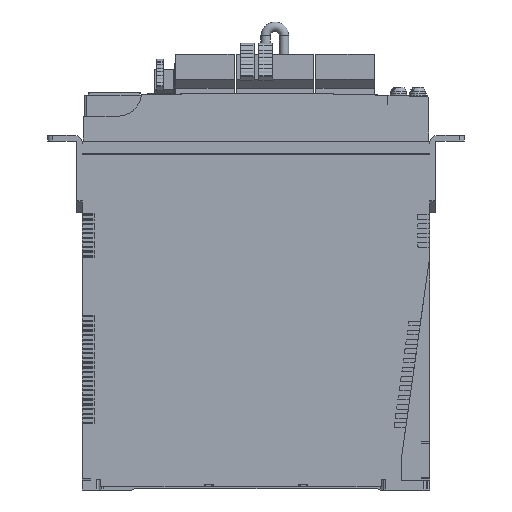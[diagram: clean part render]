
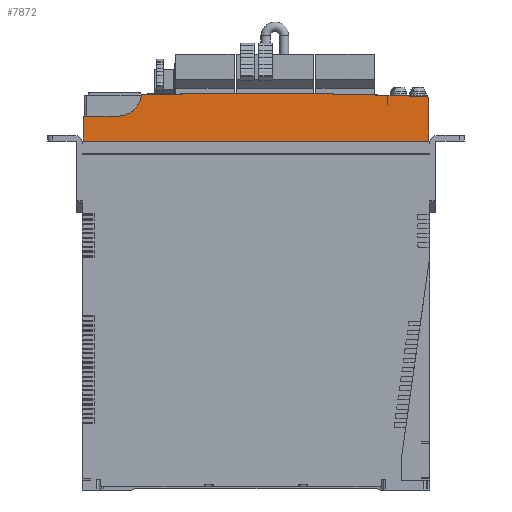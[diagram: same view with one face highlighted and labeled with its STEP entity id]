
A CAD part, left-side view. The second image highlights one B-rep face of the part: STEP entity #7872.
In plain terms, the highlighted planar face has unit normal (-1, 0, 0.018).
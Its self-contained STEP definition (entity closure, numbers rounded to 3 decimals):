
#7872 = ADVANCED_FACE( '', ( #17731 ), #17732, .T. );
#17731 = FACE_OUTER_BOUND( '', #29522, .T. );
#17732 = PLANE( '', #29523 );
#29522 = EDGE_LOOP( '', ( #54607, #54608, #54609, #54610, #54611, #54612, #54613, #54614, #54615, #54616, #54617 ) );
#29523 = AXIS2_PLACEMENT_3D( '', #54618, #54619, #54620 );
#54607 = ORIENTED_EDGE( '', *, *, #80286, .T. );
#54608 = ORIENTED_EDGE( '', *, *, #80287, .T. );
#54609 = ORIENTED_EDGE( '', *, *, #74514, .T. );
#54610 = ORIENTED_EDGE( '', *, *, #76976, .T. );
#54611 = ORIENTED_EDGE( '', *, *, #80288, .T. );
#54612 = ORIENTED_EDGE( '', *, *, #74355, .T. );
#54613 = ORIENTED_EDGE( '', *, *, #76792, .F. );
#54614 = ORIENTED_EDGE( '', *, *, #80289, .T. );
#54615 = ORIENTED_EDGE( '', *, *, #76073, .T. );
#54616 = ORIENTED_EDGE( '', *, *, #80290, .F. );
#54617 = ORIENTED_EDGE( '', *, *, #80291, .F. );
#54618 = CARTESIAN_POINT( '', ( -41.844, 150., 0. ) );
#54619 = DIRECTION( '', ( -1., 0., 0.017 ) );
#54620 = DIRECTION( '', ( 0.017, 0., 1. ) );
#74355 = EDGE_CURVE( '', #91408, #91409, #91410, .T. );
#74514 = EDGE_CURVE( '', #91673, #91674, #91675, .T. );
#76073 = EDGE_CURVE( '', #94205, #94206, #94207, .T. );
#76792 = EDGE_CURVE( '', #95325, #91409, #95327, .T. );
#76976 = EDGE_CURVE( '', #91674, #95599, #95600, .T. );
#80286 = EDGE_CURVE( '', #100286, #100287, #100288, .T. );
#80287 = EDGE_CURVE( '', #100287, #91673, #100289, .T. );
#80288 = EDGE_CURVE( '', #95599, #91408, #100290, .T. );
#80289 = EDGE_CURVE( '', #95325, #94205, #100291, .T. );
#80290 = EDGE_CURVE( '', #100292, #94206, #100293, .T. );
#80291 = EDGE_CURVE( '', #100286, #100292, #100294, .T. );
#91408 = VERTEX_POINT( '', #114770 );
#91409 = VERTEX_POINT( '', #114771 );
#91410 = LINE( '', #114772, #114773 );
#91673 = VERTEX_POINT( '', #115132 );
#91674 = VERTEX_POINT( '', #115133 );
#91675 = LINE( '', #115134, #115135 );
#94205 = VERTEX_POINT( '', #118601 );
#94206 = VERTEX_POINT( '', #118602 );
#94207 = ELLIPSE( '', #118603, 1856.252, 1855.969 );
#95325 = VERTEX_POINT( '', #120176 );
#95327 = LINE( '', #120179, #120180 );
#95599 = VERTEX_POINT( '', #120556 );
#95600 = ELLIPSE( '', #120557, 0.5, 0.5 );
#100286 = VERTEX_POINT( '', #127110 );
#100287 = VERTEX_POINT( '', #127111 );
#100288 = LINE( '', #127112, #127113 );
#100289 = LINE( '', #127114, #127115 );
#100290 = ELLIPSE( '', #127116, 1856.252, 1855.969 );
#100291 = LINE( '', #127117, #127118 );
#100292 = VERTEX_POINT( '', #127119 );
#100293 = ELLIPSE( '', #127120, 10.152, 10.15 );
#100294 = LINE( '', #127121, #127122 );
#114770 = CARTESIAN_POINT( '', ( -41.859, 18., -0.875 ) );
#114771 = CARTESIAN_POINT( '', ( -41.931, 18., -5. ) );
#114772 = CARTESIAN_POINT( '', ( -41.931, 18., -5.01 ) );
#114773 = VECTOR( '', #138081, 1000. );
#115132 = CARTESIAN_POINT( '', ( -42.204, 0.296, -20.65 ) );
#115133 = CARTESIAN_POINT( '', ( -41.878, 0.622, -1.963 ) );
#115134 = CARTESIAN_POINT( '', ( -41.852, 0.648, -0.491 ) );
#115135 = VECTOR( '', #138285, 1000. );
#118601 = CARTESIAN_POINT( '', ( -41.859, 18.07, -0.873 ) );
#118602 = CARTESIAN_POINT( '', ( -41.855, 124.563, -0.662 ) );
#118603 = AXIS2_PLACEMENT_3D( '', #140345, #140346, #140347 );
#120176 = CARTESIAN_POINT( '', ( -41.931, 18.07, -5. ) );
#120179 = CARTESIAN_POINT( '', ( -41.931, 17.5, -5. ) );
#120180 = VECTOR( '', #141312, 1000. );
#120556 = CARTESIAN_POINT( '', ( -41.869, 1.102, -1.472 ) );
#120557 = AXIS2_PLACEMENT_3D( '', #141522, #141523, #141524 );
#127110 = CARTESIAN_POINT( '', ( -42.02, 149.52, -10.094 ) );
#127111 = CARTESIAN_POINT( '', ( -42.204, 149.704, -20.65 ) );
#127112 = CARTESIAN_POINT( '', ( -42.178, 149.678, -19.172 ) );
#127113 = VECTOR( '', #145366, 1000. );
#127114 = CARTESIAN_POINT( '', ( -42.204, 150., -20.65 ) );
#127115 = VECTOR( '', #145367, 1000. );
#127116 = AXIS2_PLACEMENT_3D( '', #145368, #145369, #145370 );
#127117 = CARTESIAN_POINT( '', ( -41.928, 18.07, -4.862 ) );
#127118 = VECTOR( '', #145371, 1000. );
#127119 = CARTESIAN_POINT( '', ( -42.016, 134.524, -9.878 ) );
#127120 = AXIS2_PLACEMENT_3D( '', #145372, #145373, #145374 );
#127121 = CARTESIAN_POINT( '', ( -42.016, 134.502, -9.878 ) );
#127122 = VECTOR( '', #145375, 1000. );
#138081 = DIRECTION( '', ( -0.017, 0., -1. ) );
#138285 = DIRECTION( '', ( 0.017, 0.017, 1. ) );
#140345 = CARTESIAN_POINT( '', ( -74.24, 75., -1855.969 ) );
#140346 = DIRECTION( '', ( -1., 0., 0.017 ) );
#140347 = DIRECTION( '', ( -0.017, 0., -1. ) );
#141312 = DIRECTION( '', ( 0., -1., 0. ) );
#141522 = CARTESIAN_POINT( '', ( -41.878, 1.122, -1.971 ) );
#141523 = DIRECTION( '', ( -1., 0., 0.017 ) );
#141524 = DIRECTION( '', ( -0.017, 0., -1. ) );
#145366 = DIRECTION( '', ( -0.017, 0.017, -1. ) );
#145367 = DIRECTION( '', ( 0., -1., 0. ) );
#145368 = CARTESIAN_POINT( '', ( -74.24, 75., -1855.969 ) );
#145369 = DIRECTION( '', ( -1., 0., 0.017 ) );
#145370 = DIRECTION( '', ( -0.017, 0., -1. ) );
#145371 = DIRECTION( '', ( 0.017, 0., 1. ) );
#145372 = CARTESIAN_POINT( '', ( -41.839, 134.67, 0.271 ) );
#145373 = DIRECTION( '', ( -1., 0., 0.017 ) );
#145374 = DIRECTION( '', ( -0.017, 0., -1. ) );
#145375 = DIRECTION( '', ( 0., -1., 0.014 ) );
